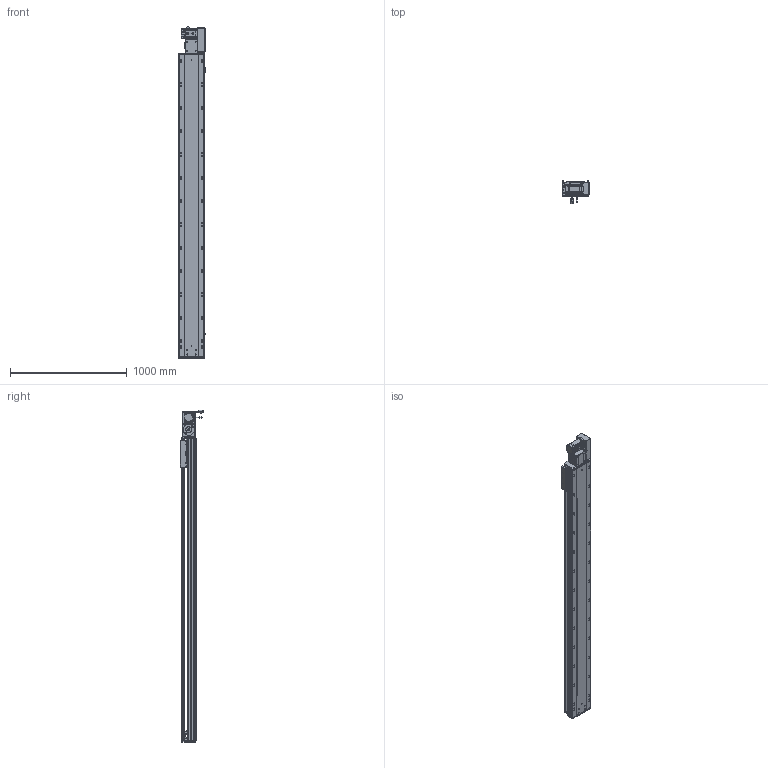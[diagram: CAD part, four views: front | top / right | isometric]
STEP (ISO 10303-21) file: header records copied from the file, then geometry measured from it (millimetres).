
FILE_DESCRIPTION (( 'STEP AP203' ), '1' );
FILE_NAME ('RY220-T-300-RK.SLDASM_2250.step', '2022-07-25T08:24:45', ( '' ), ( '' ), 'SwSTEP 2.0', 'SolidWorks 2016', '' );
FILE_SCHEMA (( 'CONFIG_CONTROL_DESIGN' ));
Length unit declared in the file: millimetre
Products named in the file (14): 滅袉蝶18-15; RY220-T-300-奻裔啣_2250; RY220-同步轮副支撑座6304×2; RY220-T-300-RK.SLDASM_2250; RY220-俋离672覜茼んえ; 怢湛750W_ECMA-CX0807ES; RY220-T菁釱-300_2250; RY220-T-湍謫欶(鍼踢); RY220圉猾敕々湍臏賑輸; RY220翋肮祭謫裔啣; RY220-T-蛌殏萇儂假蚾啣(750W); 覜茼ん672; 110A-T-肮祭謫釱傷裔; RY220翋肮祭謫釱
Assembly tree (18 placements, depth 2):
  RY220-T-300-RK.SLDASM_2250
    RY220-T菁釱-300_2250
    RY220翋肮祭謫釱
    覜茼ん672  x3
    RY220圉猾敕々湍臏賑輸
    RY220-T-300-奻裔啣_2250
    RY220-俋离672覜茼んえ
    滅袉蝶18-15  x3
    RY220翋肮祭謫裔啣  x2
    110A-T-肮祭謫釱傷裔
    怢湛750W_ECMA-CX0807ES
    RY220-T-湍謫欶(鍼踢)
    RY220-T-蛌殏萇儂假蚾啣(750W)
    RY220-同步轮副支撑座6304×2
Bounding box: 238.7 x 198.77 x 2845.24 mm (x, y, z)
Volume: 20346024.5 mm3; surface area: 6218000.6 mm2
Topology: 19 solids, 19 shells, 2890 faces, 7991 edges, 5024 vertices
Faces by surface type: cylinder 1406, plane 1069, cone 333, bspline 56, sphere 16, torus 10
Entity records: 96371 total; most frequent: CARTESIAN_POINT 27289, ORIENTED_EDGE 14298, DIRECTION 13720, EDGE_CURVE 7149, AXIS2_PLACEMENT_3D 4924, VERTEX_POINT 4648, VECTOR 3872, LINE 3872
